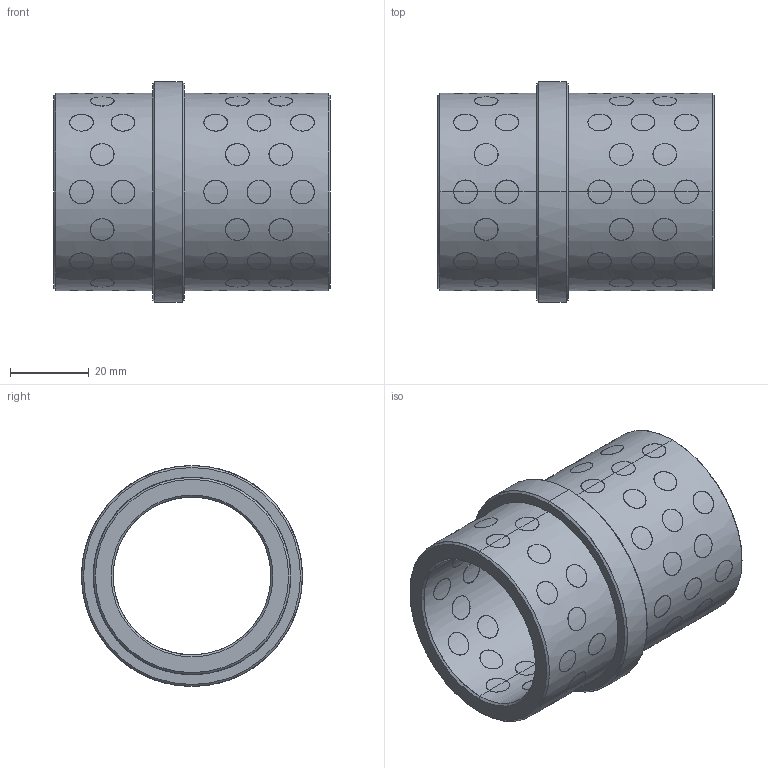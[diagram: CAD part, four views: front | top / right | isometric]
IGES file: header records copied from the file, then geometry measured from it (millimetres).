
Start section: START RECORD GO HERE.
Global section: file name: G4024045.igs; native system: DASSAULT SYSTEMES CATIA V5 R20 - www.3ds.com; preprocessor: CATIA Version 5 Release 20 ; author: r.borello; organization: CFTORINO; date: 20190624.143651; units: millimetre
Bounding box: 70 x 56 x 56 mm (x, y, z)
Surface area: 34085.2 mm2 (no closed solid volume)
Topology: 0 solids, 0 shells, 428 faces, 1872 edges, 1872 vertices
Faces by surface type: revolution 424, plane 4
